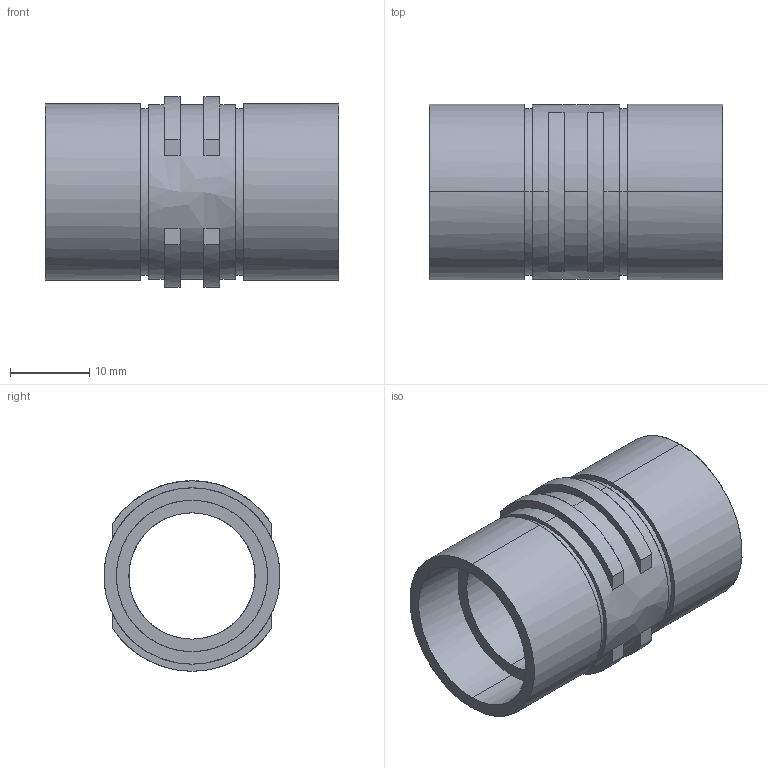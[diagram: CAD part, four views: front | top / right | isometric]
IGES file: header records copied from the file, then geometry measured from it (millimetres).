
Start section: Comment
Global section: file name: 70-19.05U-P.igs; native system:  By Spatial Corp.; preprocessor: XPlus GENERIC/IGES 3.0; author: Author; organization: Title; date: 20100222.110220; units: inch
Bounding box: 37 x 22.14 x 23.99 mm (x, y, z)
Surface area: 5294.2 mm2 (no closed solid volume)
Topology: 0 solids, 0 shells, 46 faces, 228 edges, 228 vertices
Faces by surface type: bspline 46
